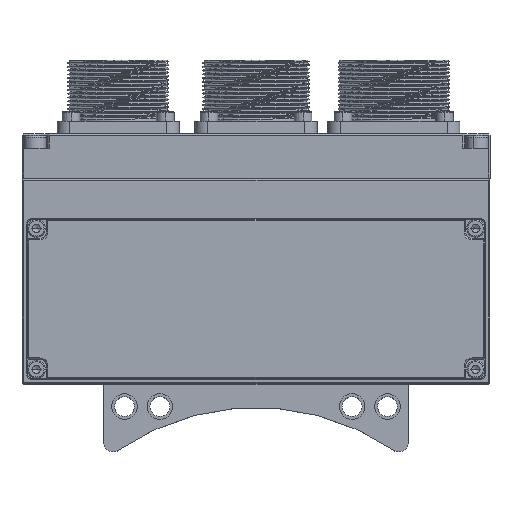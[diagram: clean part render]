
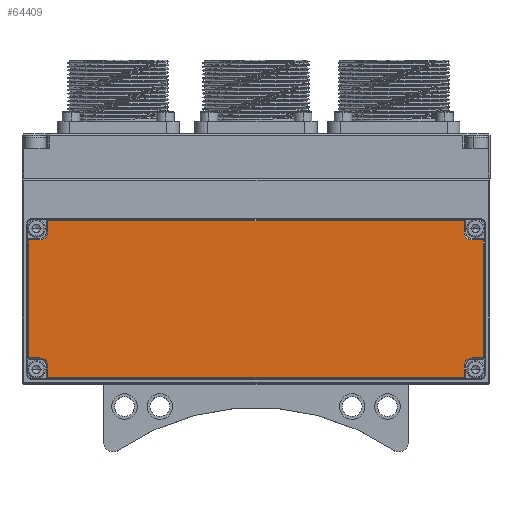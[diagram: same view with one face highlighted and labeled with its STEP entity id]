
A CAD part, top view. The second image highlights one B-rep face of the part: STEP entity #64409.
In plain terms, the highlighted planar face has unit normal (0, 0, 1).
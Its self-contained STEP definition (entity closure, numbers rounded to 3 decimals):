
#60 = EDGE_CURVE ( 'NONE', #48955, #20386, #36816, .T. ) ;
#86 = VERTEX_POINT ( 'NONE', #85229 ) ;
#2905 = DIRECTION ( 'NONE',  ( 0., -1., 0. ) ) ;
#3344 = CARTESIAN_POINT ( 'NONE',  ( -112.566, 19.518, 28. ) ) ;
#3840 = CARTESIAN_POINT ( 'NONE',  ( -113.066, 43.918, 28. ) ) ;
#4056 = DIRECTION ( 'NONE',  ( 0., 1., 0. ) ) ;
#4936 = CARTESIAN_POINT ( 'NONE',  ( 17.234, 43.918, 28. ) ) ;
#8420 = VECTOR ( 'NONE', #28895, 1000. ) ;
#10678 = PLANE ( 'NONE',  #53210 ) ;
#11300 = CIRCLE ( 'NONE', #87370, 2.5 ) ;
#14962 = EDGE_CURVE ( 'NONE', #20386, #74239, #19994, .T. ) ;
#15211 = CARTESIAN_POINT ( 'NONE',  ( -115.066, 40.418, 28. ) ) ;
#15535 = DIRECTION ( 'NONE',  ( 1., 0., 0. ) ) ;
#15917 = DIRECTION ( 'NONE',  ( 0., 0., -1. ) ) ;
#16920 = DIRECTION ( 'NONE',  ( -1., 0., 0. ) ) ;
#18104 = DIRECTION ( 'NONE',  ( 0., 0., -1. ) ) ;
#18274 = ORIENTED_EDGE ( 'NONE', *, *, #64726, .T. ) ;
#18707 = VERTEX_POINT ( 'NONE', #75895 ) ;
#19994 = LINE ( 'NONE', #101885, #8420 ) ;
#20386 = VERTEX_POINT ( 'NONE', #51304 ) ;
#21057 = DIRECTION ( 'NONE',  ( -1., 0., 0. ) ) ;
#21240 = EDGE_CURVE ( 'NONE', #97695, #47463, #96703, .T. ) ;
#22343 = EDGE_CURVE ( 'NONE', #86, #60563, #102893, .T. ) ;
#22398 = LINE ( 'NONE', #3344, #86791 ) ;
#22658 = DIRECTION ( 'NONE',  ( 0., 1., 0. ) ) ;
#23444 = DIRECTION ( 'NONE',  ( -1., 0., 0. ) ) ;
#23507 = VECTOR ( 'NONE', #22658, 1000. ) ;
#25040 = EDGE_CURVE ( 'NONE', #30746, #97695, #101310, .T. ) ;
#25155 = CARTESIAN_POINT ( 'NONE',  ( -115.066, -1.382, 28. ) ) ;
#25820 = VERTEX_POINT ( 'NONE', #52482 ) ;
#26846 = CIRCLE ( 'NONE', #103627, 2.5 ) ;
#27925 = DIRECTION ( 'NONE',  ( -1., 0., 0. ) ) ;
#28062 = CARTESIAN_POINT ( 'NONE',  ( -112.566, 43.918, 28. ) ) ;
#28606 = CARTESIAN_POINT ( 'NONE',  ( -118.566, 37.918, 28. ) ) ;
#28626 = VECTOR ( 'NONE', #21057, 1000. ) ;
#28895 = DIRECTION ( 'NONE',  ( 1., 0., 0. ) ) ;
#29494 = CARTESIAN_POINT ( 'NONE',  ( 17.234, -1.382, 28. ) ) ;
#30746 = VERTEX_POINT ( 'NONE', #29494 ) ;
#31417 = DIRECTION ( 'NONE',  ( 0., -1., 0. ) ) ;
#31811 = DIRECTION ( 'NONE',  ( 1., 0., 0. ) ) ;
#32440 = ORIENTED_EDGE ( 'NONE', *, *, #47410, .T. ) ;
#32736 = CARTESIAN_POINT ( 'NONE',  ( 17.234, 19.518, 28. ) ) ;
#34205 = LINE ( 'NONE', #32736, #89540 ) ;
#34698 = ORIENTED_EDGE ( 'NONE', *, *, #14962, .T. ) ;
#35089 = DIRECTION ( 'NONE',  ( 0., 0., -1. ) ) ;
#36816 = LINE ( 'NONE', #61442, #102437 ) ;
#37151 = AXIS2_PLACEMENT_3D ( 'NONE', #84268, #18104, #59082 ) ;
#37190 = EDGE_CURVE ( 'NONE', #60563, #18707, #26846, .T. ) ;
#37282 = EDGE_CURVE ( 'NONE', #102327, #86330, #97578, .T. ) ;
#37509 = ORIENTED_EDGE ( 'NONE', *, *, #37282, .T. ) ;
#39956 = LINE ( 'NONE', #72793, #48971 ) ;
#40059 = EDGE_LOOP ( 'NONE', ( #37509, #94869, #18274, #32440, #89013, #86984, #34698, #83741, #94284, #76219, #60151, #77359, #86323, #42366, #47175, #45479 ) ) ;
#40995 = LINE ( 'NONE', #102157, #84762 ) ;
#42366 = ORIENTED_EDGE ( 'NONE', *, *, #89170, .T. ) ;
#43220 = VECTOR ( 'NONE', #59025, 1000. ) ;
#43582 = DIRECTION ( 'NONE',  ( 0., -1., 0. ) ) ;
#44092 = CARTESIAN_POINT ( 'NONE',  ( -47.666, 19.518, 28. ) ) ;
#44198 = VERTEX_POINT ( 'NONE', #28062 ) ;
#45479 = ORIENTED_EDGE ( 'NONE', *, *, #99743, .T. ) ;
#47175 = ORIENTED_EDGE ( 'NONE', *, *, #62315, .T. ) ;
#47301 = CARTESIAN_POINT ( 'NONE',  ( -47.666, 1.118, 28. ) ) ;
#47410 = EDGE_CURVE ( 'NONE', #89064, #25820, #80815, .T. ) ;
#47463 = VERTEX_POINT ( 'NONE', #97976 ) ;
#48955 = VERTEX_POINT ( 'NONE', #98762 ) ;
#48971 = VECTOR ( 'NONE', #31417, 1000. ) ;
#51304 = CARTESIAN_POINT ( 'NONE',  ( -112.566, -4.882, 28. ) ) ;
#52482 = CARTESIAN_POINT ( 'NONE',  ( -115.066, 1.118, 28. ) ) ;
#52554 = VECTOR ( 'NONE', #31811, 1000. ) ;
#53210 = AXIS2_PLACEMENT_3D ( 'NONE', #44092, #35089, #27925 ) ;
#54100 = CARTESIAN_POINT ( 'NONE',  ( 19.734, 40.418, 28. ) ) ;
#57585 = DIRECTION ( 'NONE',  ( 0., 1., 0. ) ) ;
#58599 = CARTESIAN_POINT ( 'NONE',  ( 19.734, 1.118, 28. ) ) ;
#59025 = DIRECTION ( 'NONE',  ( -1., 0., 0. ) ) ;
#59082 = DIRECTION ( 'NONE',  ( -1., 0., 0. ) ) ;
#60151 = ORIENTED_EDGE ( 'NONE', *, *, #104858, .T. ) ;
#60563 = VERTEX_POINT ( 'NONE', #83476 ) ;
#61442 = CARTESIAN_POINT ( 'NONE',  ( -112.566, 19.518, 28. ) ) ;
#62315 = EDGE_CURVE ( 'NONE', #77161, #44198, #69895, .T. ) ;
#62580 = CARTESIAN_POINT ( 'NONE',  ( 23.234, 38.418, 28. ) ) ;
#64409 = ADVANCED_FACE ( 'NONE', ( #68358 ), #10678, .F. ) ;
#64424 = VECTOR ( 'NONE', #96331, 1000. ) ;
#64726 = EDGE_CURVE ( 'NONE', #80617, #89064, #39956, .T. ) ;
#68252 = EDGE_CURVE ( 'NONE', #74239, #30746, #34205, .T. ) ;
#68358 = FACE_OUTER_BOUND ( 'NONE', #40059, .T. ) ;
#69895 = LINE ( 'NONE', #3840, #28626 ) ;
#72793 = CARTESIAN_POINT ( 'NONE',  ( -118.566, 0.618, 28. ) ) ;
#74239 = VERTEX_POINT ( 'NONE', #76217 ) ;
#74706 = CARTESIAN_POINT ( 'NONE',  ( -112.566, 40.418, 28. ) ) ;
#75247 = CARTESIAN_POINT ( 'NONE',  ( -47.666, 37.918, 28. ) ) ;
#75895 = CARTESIAN_POINT ( 'NONE',  ( 17.234, 40.418, 28. ) ) ;
#76217 = CARTESIAN_POINT ( 'NONE',  ( 17.234, -4.882, 28. ) ) ;
#76219 = ORIENTED_EDGE ( 'NONE', *, *, #21240, .T. ) ;
#77161 = VERTEX_POINT ( 'NONE', #4936 ) ;
#77359 = ORIENTED_EDGE ( 'NONE', *, *, #22343, .T. ) ;
#79590 = DIRECTION ( 'NONE',  ( 0., 0., -1. ) ) ;
#80617 = VERTEX_POINT ( 'NONE', #28606 ) ;
#80815 = LINE ( 'NONE', #47301, #52554 ) ;
#83170 = EDGE_CURVE ( 'NONE', #86330, #80617, #90809, .T. ) ;
#83476 = CARTESIAN_POINT ( 'NONE',  ( 19.734, 37.918, 28. ) ) ;
#83681 = AXIS2_PLACEMENT_3D ( 'NONE', #15211, #15917, #23444 ) ;
#83741 = ORIENTED_EDGE ( 'NONE', *, *, #68252, .T. ) ;
#84268 = CARTESIAN_POINT ( 'NONE',  ( 19.734, -1.382, 28. ) ) ;
#84762 = VECTOR ( 'NONE', #4056, 1000. ) ;
#85229 = CARTESIAN_POINT ( 'NONE',  ( 23.234, 37.918, 28. ) ) ;
#86323 = ORIENTED_EDGE ( 'NONE', *, *, #37190, .T. ) ;
#86330 = VERTEX_POINT ( 'NONE', #91821 ) ;
#86791 = VECTOR ( 'NONE', #43582, 1000. ) ;
#86984 = ORIENTED_EDGE ( 'NONE', *, *, #60, .T. ) ;
#87370 = AXIS2_PLACEMENT_3D ( 'NONE', #25155, #99232, #16920 ) ;
#88087 = CARTESIAN_POINT ( 'NONE',  ( -47.666, 37.918, 28. ) ) ;
#88538 = CARTESIAN_POINT ( 'NONE',  ( -47.666, 1.118, 28. ) ) ;
#89013 = ORIENTED_EDGE ( 'NONE', *, *, #89514, .T. ) ;
#89064 = VERTEX_POINT ( 'NONE', #93575 ) ;
#89170 = EDGE_CURVE ( 'NONE', #18707, #77161, #40995, .T. ) ;
#89514 = EDGE_CURVE ( 'NONE', #25820, #48955, #11300, .T. ) ;
#89540 = VECTOR ( 'NONE', #57585, 1000. ) ;
#90809 = LINE ( 'NONE', #75247, #43220 ) ;
#91821 = CARTESIAN_POINT ( 'NONE',  ( -115.066, 37.918, 28. ) ) ;
#93575 = CARTESIAN_POINT ( 'NONE',  ( -118.566, 1.118, 28. ) ) ;
#94284 = ORIENTED_EDGE ( 'NONE', *, *, #25040, .T. ) ;
#94869 = ORIENTED_EDGE ( 'NONE', *, *, #83170, .T. ) ;
#95397 = DIRECTION ( 'NONE',  ( -1., 0., 0. ) ) ;
#96331 = DIRECTION ( 'NONE',  ( -1., 0., 0. ) ) ;
#96703 = LINE ( 'NONE', #88538, #97951 ) ;
#97578 = CIRCLE ( 'NONE', #83681, 2.5 ) ;
#97695 = VERTEX_POINT ( 'NONE', #58599 ) ;
#97951 = VECTOR ( 'NONE', #15535, 1000. ) ;
#97976 = CARTESIAN_POINT ( 'NONE',  ( 23.234, 1.118, 28. ) ) ;
#98762 = CARTESIAN_POINT ( 'NONE',  ( -112.566, -1.382, 28. ) ) ;
#99232 = DIRECTION ( 'NONE',  ( 0., 0., -1. ) ) ;
#99743 = EDGE_CURVE ( 'NONE', #44198, #102327, #22398, .T. ) ;
#101310 = CIRCLE ( 'NONE', #37151, 2.5 ) ;
#101885 = CARTESIAN_POINT ( 'NONE',  ( 17.734, -4.882, 28. ) ) ;
#102157 = CARTESIAN_POINT ( 'NONE',  ( 17.234, 19.518, 28. ) ) ;
#102327 = VERTEX_POINT ( 'NONE', #74706 ) ;
#102437 = VECTOR ( 'NONE', #2905, 1000. ) ;
#102893 = LINE ( 'NONE', #88087, #64424 ) ;
#103627 = AXIS2_PLACEMENT_3D ( 'NONE', #54100, #79590, #95397 ) ;
#104568 = LINE ( 'NONE', #62580, #23507 ) ;
#104858 = EDGE_CURVE ( 'NONE', #47463, #86, #104568, .T. ) ;
